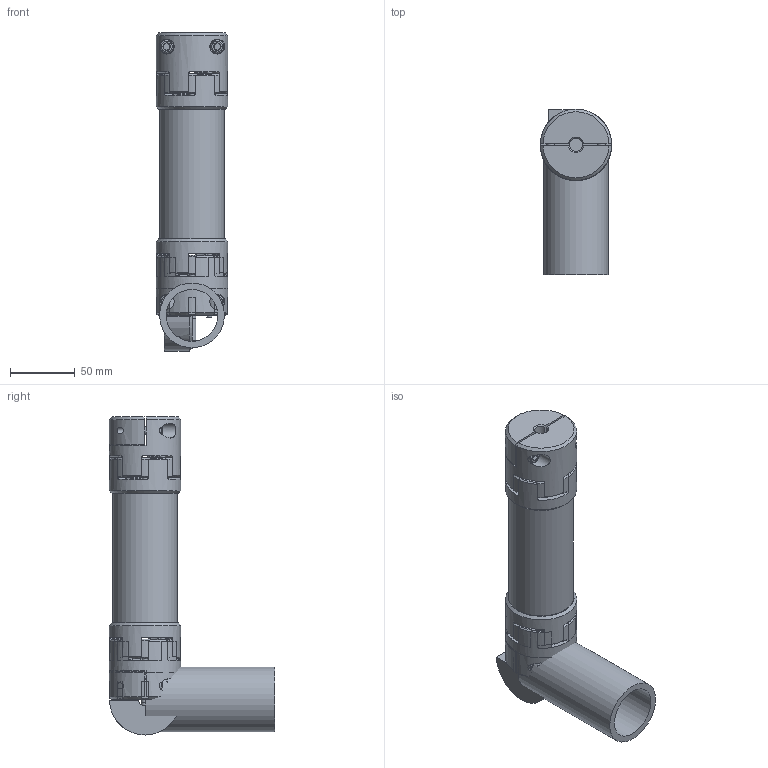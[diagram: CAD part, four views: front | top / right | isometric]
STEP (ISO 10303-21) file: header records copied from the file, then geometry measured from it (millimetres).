
FILE_DESCRIPTION( ( 'Unknown' ), '1' );
FILE_NAME( 'K:/Konstruktion/DRE/DRE24.stp', 'Unknown', ( 'Unknown' ), ( 'Unknown' ), 'XStep 1.0', 'Unknown', ' ' );
FILE_SCHEMA( ( 'automotive_design' ) );
Length unit declared in the file: millimetre
Products named in the file (7): Assem1; KBE 2H - 24_Nabe; KBE 2H - 24_Klemme; Zahnkranz_24_Standard; ISO EN DIN 4762 M6x20; R50; Aufnahme R50
Bounding box: 55 x 127.5 x 245.5 mm (x, y, z)
Volume: 552839.8 mm3; surface area: 179152.2 mm2
Topology: 19 solids, 19 shells, 895 faces, 2051 edges, 1247 vertices
Faces by surface type: cone 353, cylinder 261, plane 211, torus 70
Full cylindrical faces by diameter (mm): 4 x24, 4.917 x6, 5 x5, 6 x10, 6.5 x6, 10 x8, 11.5 x6, 16 x3, 27 x6, 40 x5, 50 x2, 55 x6
Entity records: 8774 total; most frequent: CARTESIAN_POINT 2305, DIRECTION 1350, ORIENTED_EDGE 1204, AXIS2_PLACEMENT_3D 629, EDGE_CURVE 602, VERTEX_POINT 386, EDGE_LOOP 352, CIRCLE 332
